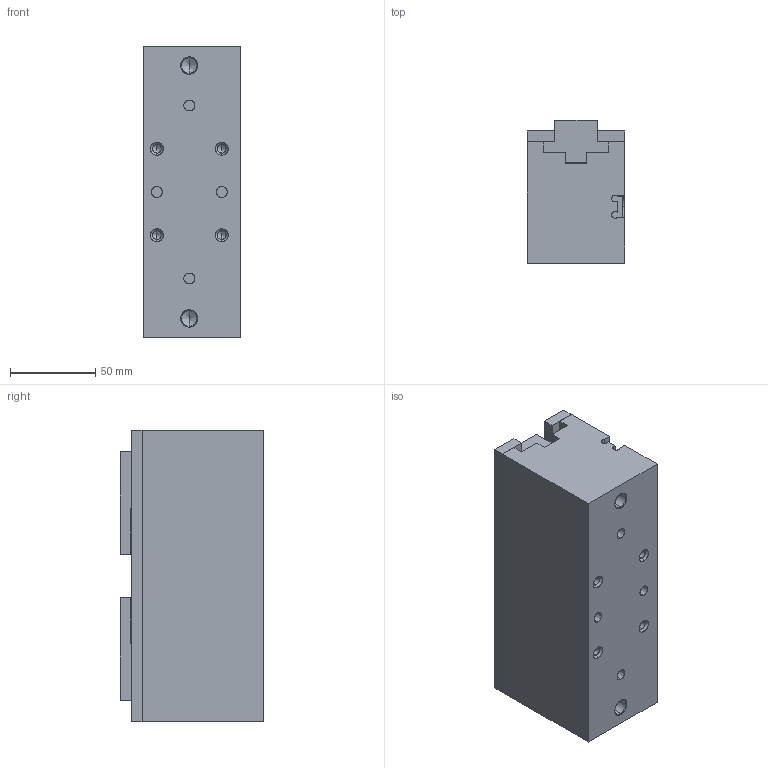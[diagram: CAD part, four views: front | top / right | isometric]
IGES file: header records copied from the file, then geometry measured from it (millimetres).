
Start section: SolidWorks IGES file using analytic representation for surfaces
Global section: file name: C:\Users\User\Downloads\AGLP-12\iges\AGLP-12-1000 open.IGS; native system: SolidWorks 2016; preprocessor: SolidWorks 2016; author: User; date: 200430.163524; units: inch
Bounding box: 57.15 x 84.14 x 171.45 mm (x, y, z)
Surface area: 101397.1 mm2 (no closed solid volume)
Topology: 0 solids, 0 shells, 226 faces, 3278 edges, 3252 vertices
Faces by surface type: revolution 140, bspline 86
